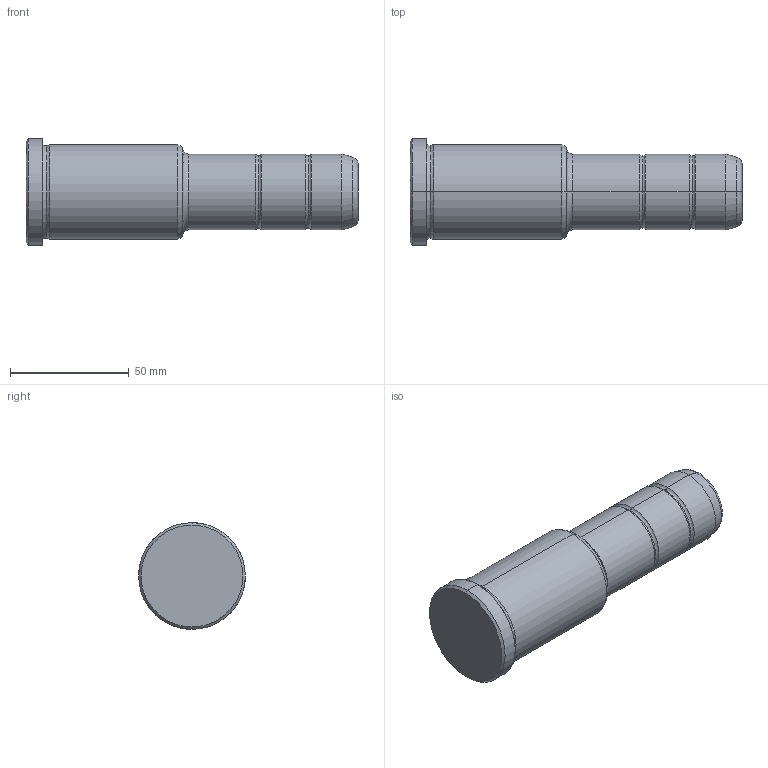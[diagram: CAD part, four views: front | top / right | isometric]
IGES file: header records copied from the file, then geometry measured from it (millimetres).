
Start section: START RECORD GO HERE.
Global section: file name: 351-32X66X140.igs; native system: DASSAULT SYSTEMES CATIA V5 R20 - www.3ds.com; preprocessor: CATIA Version 5 Release 20 ; author: Utente; organization: NB04-ASUS; date: 20210907.143035; units: millimetre
Bounding box: 140 x 45 x 45 mm (x, y, z)
Surface area: 18594.6 mm2 (no closed solid volume)
Topology: 0 solids, 0 shells, 36 faces, 204 edges, 204 vertices
Faces by surface type: revolution 32, plane 4
